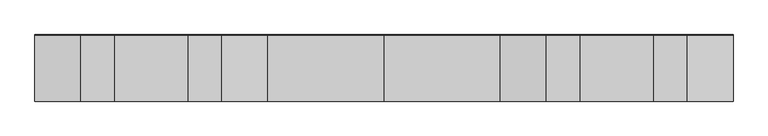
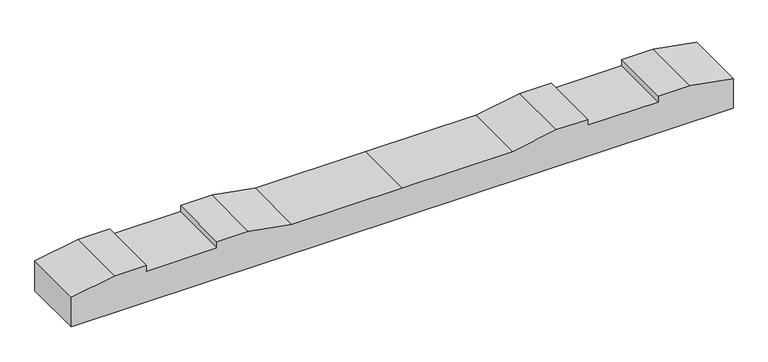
"""IFC4 building model written with IfcOpenShell, lengths in millimetres: proxy geometry, 轨枕-立面角度 : 轨枕-立面角度."""

import ifcopenshell
import ifcopenshell.guid

model = None  # the IFC model being written
_history = None  # IfcOwnerHistory: only IFC2X3 demands one
_inside = {}  # id of a spatial element -> (the spatial element, [elements in it])
_under = {}  # id of a project, library or spatial element -> (it, [spatial elements below it])
_declared = {}  # id of a project -> (the project, [libraries it declares])
_typed = {}  # id of a type object -> (the type object, [elements of that type])
_made_of = {}  # id of a material, layer set ... -> (it, [elements and type objects made of it])


def new_model(schema):
    """Start an empty IFC model of exactly this schema.

    Asked for "IFC4X3", IfcOpenShell would pick the latest addendum, in which some entities
    have other attributes; the version numbers below select the first issue.
    IFC2X3 requires an IfcOwnerHistory on every rooted entity: one is made here for all.
    """
    global model, _history
    if schema == "IFC4X3":
        model = ifcopenshell.file(schema_version=(4, 3, 0, 0))
    else:
        model = ifcopenshell.file(schema=schema)
    _inside.clear()
    _under.clear()
    _declared.clear()
    _typed.clear()
    _made_of.clear()
    _history = None
    if model.schema == "IFC2X3":
        org = make("IfcOrganization", Name="unknown")
        user = make(
            "IfcPersonAndOrganization",
            ThePerson=make("IfcPerson", FamilyName="unknown"),
            TheOrganization=org,
        )
        app = make(
            "IfcApplication",
            ApplicationDeveloper=org,
            Version="unknown",
            ApplicationFullName="unknown",
            ApplicationIdentifier="unknown",
        )
        _history = make(
            "IfcOwnerHistory",
            OwningUser=user,
            OwningApplication=app,
            ChangeAction="ADDED",
            CreationDate=0,
        )
    return model


def make(cls, **values):
    """One entity of the class cls with the attributes given. An attribute that is None is left unset."""
    return model.create_entity(
        cls, **{name: value for name, value in values.items() if value is not None}
    )


def rooted(cls, **values):
    """An entity with a GlobalId (a new one), such as an element, a storey or a relation."""
    return make(cls, GlobalId=ifcopenshell.guid.new(), OwnerHistory=_history, **values)


def si_unit(unit_type, name, prefix=None):
    """IfcSIUnit, for example si_unit("LENGTHUNIT", "METRE", prefix="MILLI")."""
    return make("IfcSIUnit", UnitType=unit_type, Prefix=prefix, Name=name)


def assignment(units):
    """IfcUnitAssignment: the units of a project."""
    return None if units is None else make("IfcUnitAssignment", Units=units)


def point(xyz):
    """IfcCartesianPoint."""
    return None if xyz is None else make("IfcCartesianPoint", Coordinates=xyz)


def direction(xyz):
    """IfcDirection."""
    return None if xyz is None else make("IfcDirection", DirectionRatios=xyz)


def frame(location, z_axis=None, x_axis=None):
    """IfcAxis2Placement3D, a coordinate frame: its origin and axes. An axis left out is left unset."""
    return make(
        "IfcAxis2Placement3D",
        Location=point(location),
        Axis=direction(z_axis),
        RefDirection=direction(x_axis),
    )


def origin():
    """The frame at (0, 0, 0) with its axes left unset."""
    return frame((0.0, 0.0, 0.0))


def place(relative_to, where):
    """IfcLocalPlacement: puts the frame where relative to a parent placement (None: the world)."""
    return make(
        "IfcLocalPlacement", PlacementRelTo=relative_to, RelativePlacement=where
    )


def context(
    kind, dimensions, precision=None, world=None, true_north=None, identifier=None
):
    """IfcGeometricRepresentationContext, for example the 3D "Model" context."""
    return make(
        "IfcGeometricRepresentationContext",
        ContextIdentifier=identifier,
        ContextType=kind,
        CoordinateSpaceDimension=dimensions,
        Precision=precision,
        WorldCoordinateSystem=world,
        TrueNorth=true_north,
    )


def project(units=None, contexts=None):
    """IfcProject with its units and contexts."""
    return rooted(
        "IfcProject",
        Name="project",
        RepresentationContexts=contexts,
        UnitsInContext=assignment(units),
    )


def spatial(cls, under=None, at=None, **own):
    """A site, building, storey or space (cls), placed at a placement, below another one or the project."""
    s = rooted(cls, ObjectPlacement=at, **own)
    if under is not None:
        _under.setdefault(under.id(), (under, []))[1].append(s)
    return s


def polyline(points):
    """IfcPolyline through the points."""
    return make("IfcPolyline", Points=[point(p) for p in points])


def outline(outer, holes=None, kind="AREA"):
    """IfcArbitraryClosedProfileDef: a profile drawn as a closed curve; with holes, ...WithVoids."""
    if holes is None:
        return make("IfcArbitraryClosedProfileDef", ProfileType=kind, OuterCurve=outer)
    return make(
        "IfcArbitraryProfileDefWithVoids",
        ProfileType=kind,
        OuterCurve=outer,
        InnerCurves=holes,
    )


def extrude(swept, where, along, depth):
    """IfcExtrudedAreaSolid: the profile swept, set in the frame where, extruded along a direction by depth."""
    return make(
        "IfcExtrudedAreaSolid",
        SweptArea=swept,
        Position=where,
        ExtrudedDirection=direction(along),
        Depth=depth,
    )


def shape(context_of_items, identifier, shape_type, items):
    """IfcShapeRepresentation: the items that make up one representation, for example the "Body"."""
    return make(
        "IfcShapeRepresentation",
        ContextOfItems=context_of_items,
        RepresentationIdentifier=identifier,
        RepresentationType=shape_type,
        Items=items,
    )


def source(mapping_origin, context_of_items, identifier, shape_type, items):
    """IfcRepresentationMap: a shape defined once, which mapped items show again and again."""
    return make(
        "IfcRepresentationMap",
        MappingOrigin=mapping_origin,
        MappedRepresentation=shape(context_of_items, identifier, shape_type, items),
    )


def transform(
    local_origin,
    x_axis=None,
    y_axis=None,
    z_axis=None,
    scale=None,
    scale2=None,
    scale3=None,
    uniform=True,
):
    """IfcCartesianTransformationOperator3D, or its non-uniform kind. x_axis, y_axis, z_axis: its Axis1, 2, 3."""
    if uniform:
        return make(
            "IfcCartesianTransformationOperator3D",
            Axis1=direction(x_axis),
            Axis2=direction(y_axis),
            LocalOrigin=point(local_origin),
            Scale=scale,
            Axis3=direction(z_axis),
        )
    return make(
        "IfcCartesianTransformationOperator3DnonUniform",
        Axis1=direction(x_axis),
        Axis2=direction(y_axis),
        LocalOrigin=point(local_origin),
        Scale=scale,
        Axis3=direction(z_axis),
        Scale2=scale2,
        Scale3=scale3,
    )


def mapped(mapping_source, mapping_target):
    """IfcMappedItem: shows the shape of a source again, moved by a transform."""
    return make(
        "IfcMappedItem", MappingSource=mapping_source, MappingTarget=mapping_target
    )


def made_of(thing, what):
    """Note that an element or type object is made of a material, layer set ...; save() writes the relation."""
    if what is not None:
        _made_of.setdefault(what.id(), (what, []))[1].append(thing)
    return thing


def element(
    cls,
    number,
    at=None,
    inside=None,
    cuts=None,
    type_object=None,
    material=None,
    context=None,
    identifier="Body",
    shape_type=None,
    held_by="IfcProductDefinitionShape",
    body=None,
    shapes=None,
    **own,
):
    """One element of the class cls, such as IfcWall. Its Tag is "e" and its number.

    at: its placement. inside: the storey or other place that contains it. cuts: it is an
    opening in that element (IfcRelVoidsElement). A single representation is given by context,
    identifier, shape_type and body (its items); several are given by shapes. held_by: the class
    of the entity that holds the representations. save() writes the other relations.
    """
    e = rooted(cls, Tag="e%d" % number, ObjectPlacement=at, **own)
    if body is not None:
        shapes = [shape(context, identifier, shape_type, body)]
    if shapes is not None:
        e.Representation = make(held_by, Representations=shapes)
    if inside is not None:
        _inside.setdefault(inside.id(), (inside, []))[1].append(e)
    if cuts is not None:
        rooted(
            "IfcRelVoidsElement", RelatingBuildingElement=cuts, RelatedOpeningElement=e
        )
    if type_object is not None:
        _typed.setdefault(type_object.id(), (type_object, []))[1].append(e)
    return made_of(e, material)


def aggregate(whole, parts):
    """IfcRelAggregates: a whole, such as a stair, and the parts it consists of."""
    return rooted("IfcRelAggregates", RelatingObject=whole, RelatedObjects=parts)


def save(model, path):
    """Write the relations noted so far, then the file.

    IfcRelAggregates (storeys below a building ...), IfcRelContainedInSpatialStructure (elements
    in a storey), IfcRelDefinesByType, IfcRelAssociatesMaterial and IfcRelDeclares: one each for
    every whole, place, type object, material and project.
    """
    for whole, parts in _under.values():
        aggregate(whole, parts)
    for where, things in _inside.values():
        rooted(
            "IfcRelContainedInSpatialStructure",
            RelatedElements=things,
            RelatingStructure=where,
        )
    for kind, things in _typed.values():
        rooted("IfcRelDefinesByType", RelatedObjects=things, RelatingType=kind)
    for what, things in _made_of.values():
        rooted("IfcRelAssociatesMaterial", RelatedObjects=things, RelatingMaterial=what)
    for by, libraries in _declared.values():
        rooted("IfcRelDeclares", RelatingContext=by, RelatedDefinitions=libraries)
    model.write(path)


def generic_models_c544768d(model_context):
    return source(origin(), model_context, "Body", "SweptSolid", [
        extrude(outline(polyline([(0.0, 0.0), (2099.7669328, 0.0), (2099.7669328, -100.020689), (1961.8834664, -124.5), (1861.8834664, -124.5), (1861.8834664, -104.5), (1637.8834664, -104.5), (1637.8834664, -124.5), (1537.8834664, -124.5), (1399.8834664, -100.0), (1049.8834664, -100.0), (699.8834664, -100.0), (561.8834664, -124.5), (461.8834664, -124.5), (461.8834664, -104.5), (237.8834664, -104.5), (237.8834664, -124.5), (137.8834664, -124.5), (0.0, -100.020689), (0.0, 0.0)])), frame((-1049.8834664, -99.6904493, -104.7953449), z_axis=(0.0, 0.9999956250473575, 0.0029580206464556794), x_axis=(1.0, 0.0, 0.0)), (0.0, 0.0, 1.0), 200.0),
    ])


if __name__ == "__main__":
    model = new_model("IFC4")
    model_context = context("Model", 3, world=origin())
    ifc_project = project(units=[si_unit("LENGTHUNIT", "METRE", prefix="MILLI")], contexts=[model_context])
    site = spatial("IfcSite", under=ifc_project)
    building = spatial("IfcBuilding", under=site)
    placement = place(None, origin())
    generic_models_shape = generic_models_c544768d(model_context)
    element("IfcBuildingElementProxy", 1, Name="轨枕-立面角度 : 轨枕-立面角度", ObjectType="轨枕-立面角度 : 轨枕-立面角度", at=placement, inside=building, context=model_context, shape_type="MappedRepresentation", body=[
        mapped(generic_models_shape, transform((0.0, 0.0, 0.0), x_axis=(1.0, 0.0, 0.0), y_axis=(0.0, 1.0, 0.0), z_axis=(0.0, 0.0, 1.0))),
    ])
    save(model, "model.ifc")
